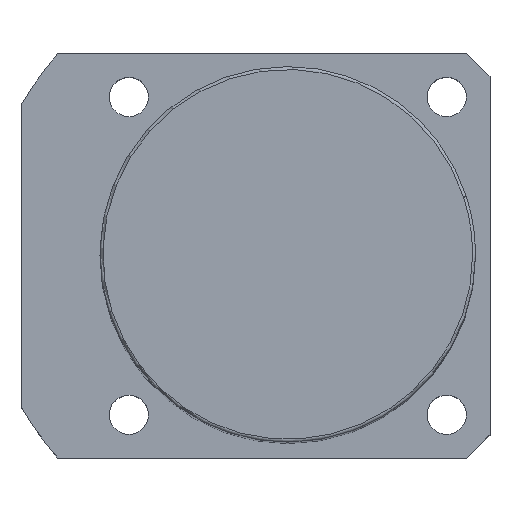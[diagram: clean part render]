
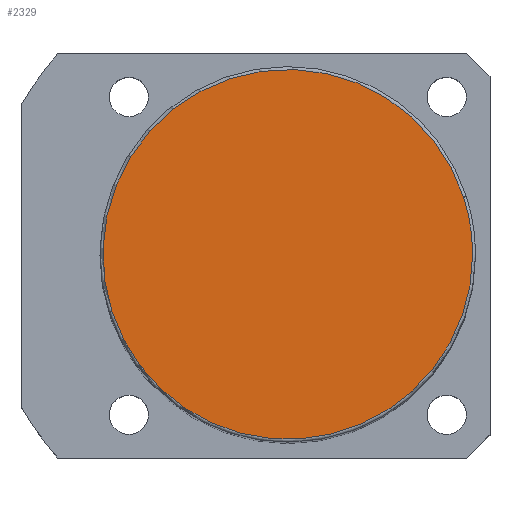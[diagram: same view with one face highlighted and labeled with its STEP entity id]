
A CAD part, top view. The second image highlights one B-rep face of the part: STEP entity #2329.
In plain terms, the highlighted planar face has unit normal (0, 0, 1).
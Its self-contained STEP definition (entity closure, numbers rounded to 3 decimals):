
#2262=CARTESIAN_POINT('',(30.434,9.889,161.0));
#2263=VERTEX_POINT('',#2262);
#2281=CARTESIAN_POINT('',(-30.434,-9.889,161.0));
#2282=VERTEX_POINT('',#2281);
#2290=CARTESIAN_POINT('',(0.0,0.0,161.0));
#2291=DIRECTION('',(0.0,0.0,1.0));
#2292=DIRECTION('',(1.0,0.0,0.0));
#2293=AXIS2_PLACEMENT_3D('',#2290,#2291,#2292);
#2294=CIRCLE('',#2293,32.0);
#2295=EDGE_CURVE('no 2153',#2263,#2282,#2294,.T.);
#2305=CARTESIAN_POINT('',(32.0,0.0,161.0));
#2306=VERTEX_POINT('',#2305);
#2307=CARTESIAN_POINT('',(0.0,0.0,161.0));
#2308=DIRECTION('',(0.0,0.0,1.0));
#2309=DIRECTION('',(1.0,0.0,0.0));
#2310=AXIS2_PLACEMENT_3D('',#2307,#2308,#2309);
#2311=CIRCLE('',#2310,32.0);
#2312=EDGE_CURVE('no 2162',#2306,#2263,#2311,.T.);
#2313=ORIENTED_EDGE('',*,*,#2312,.T.);
#2314=ORIENTED_EDGE('',*,*,#2295,.T.);
#2315=CARTESIAN_POINT('',(0.0,0.0,161.0));
#2316=DIRECTION('',(0.0,0.0,1.0));
#2317=DIRECTION('',(1.0,0.0,0.0));
#2318=AXIS2_PLACEMENT_3D('',#2315,#2316,#2317);
#2319=CIRCLE('',#2318,32.0);
#2320=EDGE_CURVE('no 2168',#2282,#2306,#2319,.T.);
#2321=ORIENTED_EDGE('',*,*,#2320,.T.);
#2322=EDGE_LOOP('',(#2313,#2314,#2321));
#2323=FACE_OUTER_BOUND('',#2322,.T.);
#2324=CARTESIAN_POINT('',(0.0,0.0,161.0));
#2325=DIRECTION('',(0.0,0.0,1.0));
#2326=DIRECTION('',(1.0,0.0,0.0));
#2327=AXIS2_PLACEMENT_3D('',#2324,#2325,#2326);
#2328=PLANE('',#2327);
#2329=ADVANCED_FACE('no 2155',(#2323),#2328,.T.);
